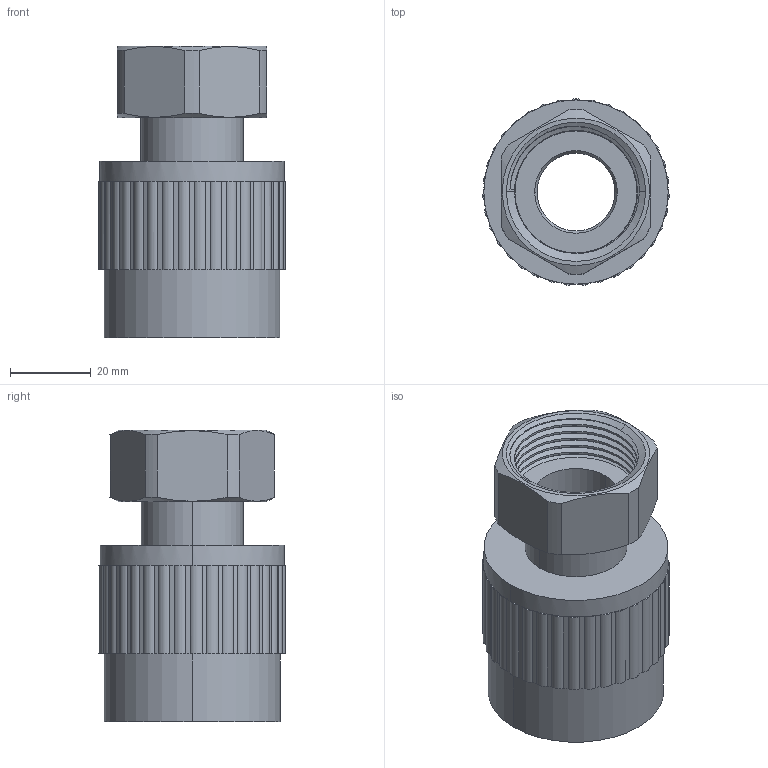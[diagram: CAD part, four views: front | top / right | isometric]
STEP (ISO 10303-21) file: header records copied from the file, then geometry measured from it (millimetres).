
FILE_DESCRIPTION (( 'STEP AP203' ), '1' );
FILE_NAME ('PPG03_ASM.STEP', '2022-08-23T13:32:14', ( '' ), ( '' ), 'SwSTEP 2.0', 'SolidWorks 2021', '' );
FILE_SCHEMA (( 'CONFIG_CONTROL_DESIGN' ));
Length unit declared in the file: millimetre
Products named in the file (4): PPG03_INSERT; PPG03_PLASTIC; PPG03_ASM; PPG03_NUT
Assembly tree (3 placements, depth 2):
  PPG03_ASM
    PPG03_PLASTIC
    PPG03_INSERT
    PPG03_NUT
Bounding box: 46.26 x 46.21 x 72.35 mm (x, y, z)
Volume: 58253.5 mm3; surface area: 25498.1 mm2
Topology: 3 solids, 3 shells, 294 faces, 730 edges, 460 vertices
Faces by surface type: cylinder 148, plane 133, cone 10, bspline 3
Entity records: 10745 total; most frequent: CARTESIAN_POINT 3063, DIRECTION 1726, ORIENTED_EDGE 1460, AXIS2_PLACEMENT_3D 749, EDGE_CURVE 730, VERTEX_POINT 460, CIRCLE 452, EDGE_LOOP 318
